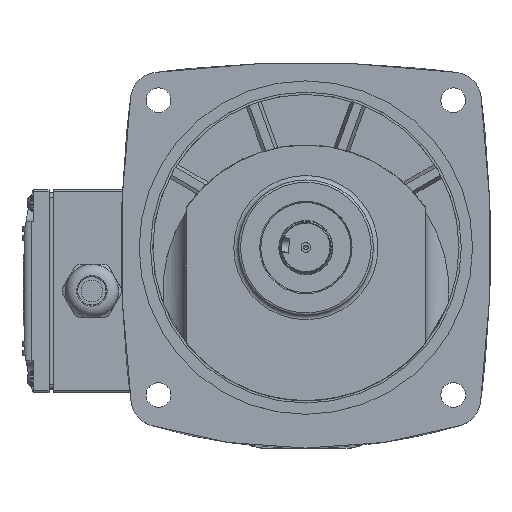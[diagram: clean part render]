
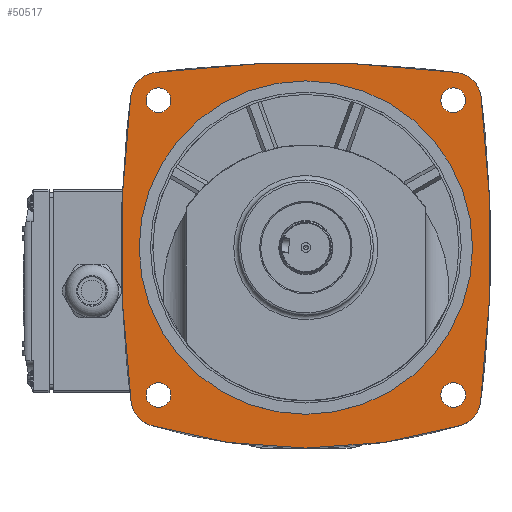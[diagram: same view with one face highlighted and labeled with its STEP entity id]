
A CAD part, top view. The second image highlights one B-rep face of the part: STEP entity #50517.
In plain terms, the highlighted planar face has unit normal (0, 0, 1).
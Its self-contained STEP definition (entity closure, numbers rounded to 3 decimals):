
#2735=FACE_BOUND('',#8536,.T.);
#2736=FACE_BOUND('',#8537,.T.);
#2737=FACE_BOUND('',#8538,.T.);
#2738=FACE_BOUND('',#8539,.T.);
#2739=FACE_BOUND('',#8540,.T.);
#3259=PLANE('',#54097);
#5408=FACE_OUTER_BOUND('',#8535,.T.);
#8535=EDGE_LOOP('',(#34278,#34279,#34280,#34281,#34282,#34283,#34284,#34285));
#8536=EDGE_LOOP('',(#34286));
#8537=EDGE_LOOP('',(#34287));
#8538=EDGE_LOOP('',(#34288));
#8539=EDGE_LOOP('',(#34289));
#8540=EDGE_LOOP('',(#34290));
#11672=CIRCLE('',#53779,5.5);
#11675=CIRCLE('',#53784,5.5);
#11678=CIRCLE('',#53789,5.5);
#11681=CIRCLE('',#53794,5.5);
#11684=CIRCLE('',#53799,12.5);
#11686=CIRCLE('',#53802,12.5);
#11696=CIRCLE('',#53838,530.);
#11700=CIRCLE('',#53843,530.);
#11834=CIRCLE('',#54090,12.5);
#11835=CIRCLE('',#54092,530.);
#11836=CIRCLE('',#54094,12.5);
#11837=CIRCLE('',#54096,240.);
#11838=CIRCLE('',#54098,74.);
#20367=VERTEX_POINT('',#77518);
#20370=VERTEX_POINT('',#77528);
#20373=VERTEX_POINT('',#77538);
#20376=VERTEX_POINT('',#77548);
#20379=VERTEX_POINT('',#77558);
#20380=VERTEX_POINT('',#77559);
#20383=VERTEX_POINT('',#77567);
#20384=VERTEX_POINT('',#77568);
#20401=VERTEX_POINT('',#77637);
#20611=VERTEX_POINT('',#78546);
#20612=VERTEX_POINT('',#78550);
#20613=VERTEX_POINT('',#78554);
#20614=VERTEX_POINT('',#78560);
#25286=EDGE_CURVE('',#20367,#20367,#11672,.T.);
#25291=EDGE_CURVE('',#20370,#20370,#11675,.T.);
#25296=EDGE_CURVE('',#20373,#20373,#11678,.T.);
#25301=EDGE_CURVE('',#20376,#20376,#11681,.T.);
#25306=EDGE_CURVE('',#20379,#20380,#11684,.T.);
#25310=EDGE_CURVE('',#20383,#20384,#11686,.T.);
#25344=EDGE_CURVE('',#20401,#20379,#11696,.T.);
#25351=EDGE_CURVE('',#20380,#20383,#11700,.T.);
#25673=EDGE_CURVE('',#20611,#20401,#11834,.T.);
#25675=EDGE_CURVE('',#20612,#20611,#11835,.T.);
#25677=EDGE_CURVE('',#20613,#20612,#11836,.T.);
#25679=EDGE_CURVE('',#20384,#20613,#11837,.T.);
#25680=EDGE_CURVE('',#20614,#20614,#11838,.T.);
#34278=ORIENTED_EDGE('',*,*,#25344,.F.);
#34279=ORIENTED_EDGE('',*,*,#25673,.F.);
#34280=ORIENTED_EDGE('',*,*,#25675,.F.);
#34281=ORIENTED_EDGE('',*,*,#25677,.F.);
#34282=ORIENTED_EDGE('',*,*,#25679,.F.);
#34283=ORIENTED_EDGE('',*,*,#25310,.F.);
#34284=ORIENTED_EDGE('',*,*,#25351,.F.);
#34285=ORIENTED_EDGE('',*,*,#25306,.F.);
#34286=ORIENTED_EDGE('',*,*,#25301,.F.);
#34287=ORIENTED_EDGE('',*,*,#25296,.F.);
#34288=ORIENTED_EDGE('',*,*,#25291,.F.);
#34289=ORIENTED_EDGE('',*,*,#25286,.F.);
#34290=ORIENTED_EDGE('',*,*,#25680,.F.);
#50517=ADVANCED_FACE('',(#5408,#2735,#2736,#2737,#2738,#2739),#3259,.F.);
#53779=AXIS2_PLACEMENT_3D('',#77519,#60281,#60282);
#53784=AXIS2_PLACEMENT_3D('',#77529,#60293,#60294);
#53789=AXIS2_PLACEMENT_3D('',#77539,#60305,#60306);
#53794=AXIS2_PLACEMENT_3D('',#77549,#60317,#60318);
#53799=AXIS2_PLACEMENT_3D('',#77560,#60329,#60330);
#53802=AXIS2_PLACEMENT_3D('',#77569,#60337,#60338);
#53838=AXIS2_PLACEMENT_3D('',#77638,#60425,#60426);
#53843=AXIS2_PLACEMENT_3D('',#77651,#60438,#60439);
#54090=AXIS2_PLACEMENT_3D('',#78547,#61113,#61114);
#54092=AXIS2_PLACEMENT_3D('',#78551,#61118,#61119);
#54094=AXIS2_PLACEMENT_3D('',#78555,#61123,#61124);
#54096=AXIS2_PLACEMENT_3D('',#78558,#61128,#61129);
#54097=AXIS2_PLACEMENT_3D('',#78559,#61130,#61131);
#54098=AXIS2_PLACEMENT_3D('',#78561,#61132,#61133);
#60281=DIRECTION('center_axis',(0.,0.,1.));
#60282=DIRECTION('ref_axis',(-1.,0.,0.));
#60293=DIRECTION('center_axis',(0.,0.,1.));
#60294=DIRECTION('ref_axis',(-1.,0.,0.));
#60305=DIRECTION('center_axis',(0.,0.,1.));
#60306=DIRECTION('ref_axis',(-1.,0.,0.));
#60317=DIRECTION('center_axis',(0.,0.,1.));
#60318=DIRECTION('ref_axis',(-1.,0.,0.));
#60329=DIRECTION('center_axis',(0.,0.,-1.));
#60330=DIRECTION('ref_axis',(0.707,0.707,0.));
#60337=DIRECTION('center_axis',(0.,0.,-1.));
#60338=DIRECTION('ref_axis',(0.762,-0.648,0.));
#60425=DIRECTION('center_axis',(0.,0.,-1.));
#60426=DIRECTION('ref_axis',(0.144,0.99,0.));
#60438=DIRECTION('center_axis',(0.,0.,-1.));
#60439=DIRECTION('ref_axis',(0.99,-0.144,0.));
#61113=DIRECTION('center_axis',(0.,0.,-1.));
#61114=DIRECTION('ref_axis',(-0.707,0.707,0.));
#61118=DIRECTION('center_axis',(0.,0.,-1.));
#61119=DIRECTION('ref_axis',(-0.99,0.144,0.));
#61123=DIRECTION('center_axis',(0.,0.,-1.));
#61124=DIRECTION('ref_axis',(-0.762,-0.648,0.));
#61128=DIRECTION('center_axis',(0.,0.,-1.));
#61129=DIRECTION('ref_axis',(-0.319,-0.948,0.));
#61130=DIRECTION('center_axis',(0.,0.,-1.));
#61131=DIRECTION('ref_axis',(-1.,0.,0.));
#61132=DIRECTION('center_axis',(0.,0.,1.));
#61133=DIRECTION('ref_axis',(-1.,0.,0.));
#77518=CARTESIAN_POINT('',(89.024,57.533,25.75));
#77519=CARTESIAN_POINT('Origin',(83.524,57.533,25.75));
#77528=CARTESIAN_POINT('',(-41.791,57.533,25.75));
#77529=CARTESIAN_POINT('Origin',(-47.291,57.533,25.75));
#77538=CARTESIAN_POINT('',(-41.791,-73.281,25.75));
#77539=CARTESIAN_POINT('Origin',(-47.291,-73.281,25.75));
#77548=CARTESIAN_POINT('',(89.024,-73.281,25.75));
#77549=CARTESIAN_POINT('Origin',(83.524,-73.281,25.75));
#77558=CARTESIAN_POINT('',(85.052,69.882,25.75));
#77559=CARTESIAN_POINT('',(95.873,59.061,25.75));
#77560=CARTESIAN_POINT('Origin',(83.473,57.482,25.75));
#77567=CARTESIAN_POINT('',(95.66,-76.464,25.75));
#77568=CARTESIAN_POINT('',(86.844,-86.823,25.75));
#77569=CARTESIAN_POINT('Origin',(83.265,-74.847,25.75));
#77637=CARTESIAN_POINT('',(-48.818,69.882,25.75));
#77638=CARTESIAN_POINT('Origin',(18.117,-455.874,25.75));
#77651=CARTESIAN_POINT('Origin',(-429.883,-7.874,25.75));
#78546=CARTESIAN_POINT('',(-59.64,59.061,25.75));
#78547=CARTESIAN_POINT('Origin',(-47.24,57.482,25.75));
#78550=CARTESIAN_POINT('',(-59.426,-76.464,25.75));
#78551=CARTESIAN_POINT('Origin',(466.117,-7.874,25.75));
#78554=CARTESIAN_POINT('',(-50.611,-86.823,25.75));
#78555=CARTESIAN_POINT('Origin',(-47.031,-74.847,25.75));
#78558=CARTESIAN_POINT('Origin',(18.117,143.126,25.75));
#78559=CARTESIAN_POINT('Origin',(18.117,-7.874,25.75));
#78560=CARTESIAN_POINT('',(92.117,-7.874,25.75));
#78561=CARTESIAN_POINT('Origin',(18.117,-7.874,25.75));
